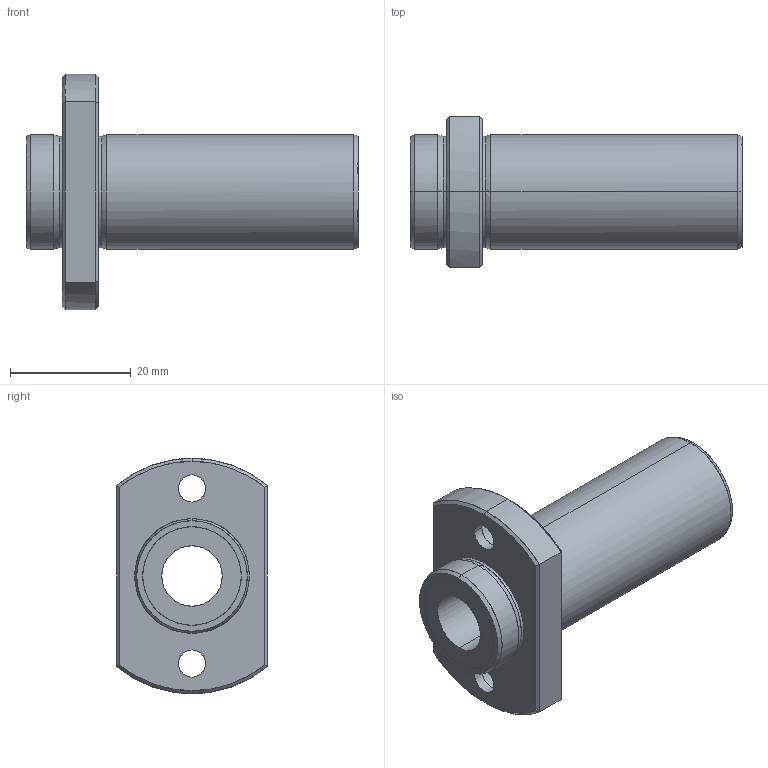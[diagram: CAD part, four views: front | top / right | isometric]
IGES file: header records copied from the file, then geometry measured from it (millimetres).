
Global section: file name: No Iges File Name specified; native system: AutoDesk Inventor R10; preprocessor: AutoDesk Inventor Iges Exporter R10; author: No Author specified; organization: No Organization specified; date: 20101209.173813; units: millimetre
Bounding box: 55 x 25 x 39 mm (x, y, z)
Surface area: 7121.8 mm2 (no closed solid volume)
Topology: 0 solids, 0 shells, 56 faces, 336 edges, 336 vertices
Faces by surface type: bspline 56
